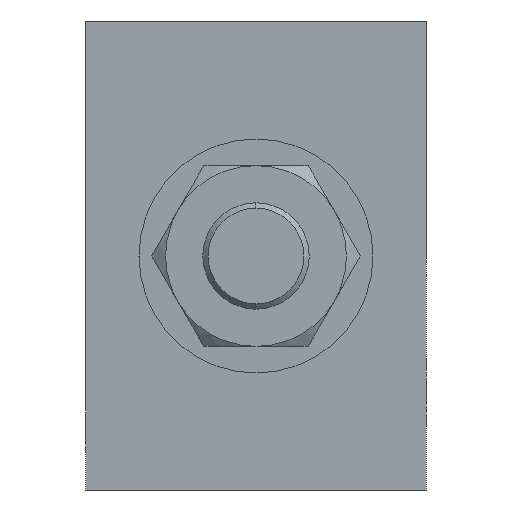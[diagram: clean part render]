
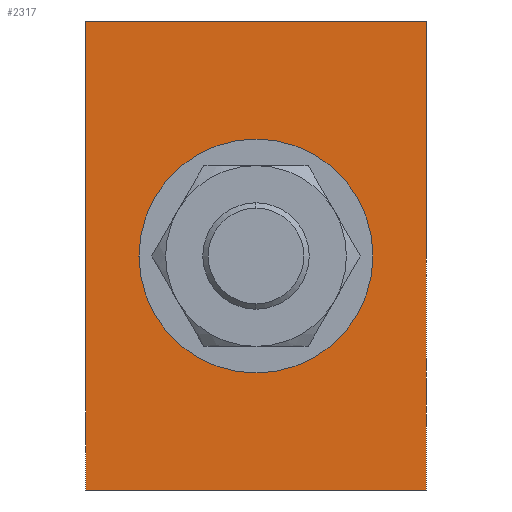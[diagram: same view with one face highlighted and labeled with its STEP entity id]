
A CAD part, left-side view. The second image highlights one B-rep face of the part: STEP entity #2317.
In plain terms, the highlighted planar face has unit normal (-1, 0, 0).
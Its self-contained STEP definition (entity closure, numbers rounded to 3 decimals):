
#6 = AXIS2_PLACEMENT_3D ( 'NONE', #1198, #2289, #2150 ) ;
#16 = DIRECTION ( 'NONE',  ( 0., 0., 1. ) ) ;
#20 = DIRECTION ( 'NONE',  ( 0., 0., -1. ) ) ;
#69 = ORIENTED_EDGE ( 'NONE', *, *, #375, .F. ) ;
#350 = EDGE_CURVE ( 'NONE', #2501, #1568, #2348, .T. ) ;
#353 = VERTEX_POINT ( 'NONE', #2737 ) ;
#375 = EDGE_CURVE ( 'NONE', #2255, #2501, #1976, .T. ) ;
#389 = EDGE_LOOP ( 'NONE', ( #2883, #1781, #69, #1133 ) ) ;
#483 = VECTOR ( 'NONE', #853, 1000. ) ;
#550 = EDGE_LOOP ( 'NONE', ( #1581, #2135 ) ) ;
#572 = AXIS2_PLACEMENT_3D ( 'NONE', #1766, #2324, #2096 ) ;
#617 = CIRCLE ( 'NONE', #572, 11. ) ;
#645 = FACE_OUTER_BOUND ( 'NONE', #389, .T. ) ;
#666 = VECTOR ( 'NONE', #2585, 1000. ) ;
#803 = CARTESIAN_POINT ( 'NONE',  ( -29., -16., -22. ) ) ;
#853 = DIRECTION ( 'NONE',  ( 0., -1., 0. ) ) ;
#890 = CARTESIAN_POINT ( 'NONE',  ( -29., -16., 22. ) ) ;
#895 = FACE_BOUND ( 'NONE', #550, .T. ) ;
#1091 = VECTOR ( 'NONE', #20, 1000. ) ;
#1106 = LINE ( 'NONE', #1267, #483 ) ;
#1133 = ORIENTED_EDGE ( 'NONE', *, *, #2534, .F. ) ;
#1198 = CARTESIAN_POINT ( 'NONE',  ( -29., 0., 0. ) ) ;
#1234 = VERTEX_POINT ( 'NONE', #890 ) ;
#1267 = CARTESIAN_POINT ( 'NONE',  ( -29., -16., 22. ) ) ;
#1353 = DIRECTION ( 'NONE',  ( -1., 0., 0. ) ) ;
#1390 = CIRCLE ( 'NONE', #6, 11. ) ;
#1476 = CARTESIAN_POINT ( 'NONE',  ( -29., 16., 22. ) ) ;
#1477 = EDGE_CURVE ( 'NONE', #353, #2417, #617, .T. ) ;
#1568 = VERTEX_POINT ( 'NONE', #1693 ) ;
#1581 = ORIENTED_EDGE ( 'NONE', *, *, #1477, .T. ) ;
#1688 = CARTESIAN_POINT ( 'NONE',  ( -29., 0., -11. ) ) ;
#1693 = CARTESIAN_POINT ( 'NONE',  ( -29., 16., 22. ) ) ;
#1766 = CARTESIAN_POINT ( 'NONE',  ( -29., 0., 0. ) ) ;
#1781 = ORIENTED_EDGE ( 'NONE', *, *, #350, .F. ) ;
#1789 = DIRECTION ( 'NONE',  ( 0., 1., 0. ) ) ;
#1826 = LINE ( 'NONE', #1920, #1091 ) ;
#1920 = CARTESIAN_POINT ( 'NONE',  ( -29., -16., 22. ) ) ;
#1976 = LINE ( 'NONE', #2025, #2328 ) ;
#2025 = CARTESIAN_POINT ( 'NONE',  ( -29., -16., -22. ) ) ;
#2096 = DIRECTION ( 'NONE',  ( 0., 0., 1. ) ) ;
#2135 = ORIENTED_EDGE ( 'NONE', *, *, #2357, .T. ) ;
#2150 = DIRECTION ( 'NONE',  ( 0., 0., 1. ) ) ;
#2255 = VERTEX_POINT ( 'NONE', #803 ) ;
#2289 = DIRECTION ( 'NONE',  ( 1., 0., 0. ) ) ;
#2317 = ADVANCED_FACE ( 'NONE', ( #645, #895 ), #2775, .T. ) ;
#2324 = DIRECTION ( 'NONE',  ( 1., 0., 0. ) ) ;
#2328 = VECTOR ( 'NONE', #1789, 1000. ) ;
#2348 = LINE ( 'NONE', #1476, #666 ) ;
#2357 = EDGE_CURVE ( 'NONE', #2417, #353, #1390, .T. ) ;
#2417 = VERTEX_POINT ( 'NONE', #1688 ) ;
#2495 = EDGE_CURVE ( 'NONE', #1568, #1234, #1106, .T. ) ;
#2501 = VERTEX_POINT ( 'NONE', #2881 ) ;
#2534 = EDGE_CURVE ( 'NONE', #1234, #2255, #1826, .T. ) ;
#2585 = DIRECTION ( 'NONE',  ( 0., 0., 1. ) ) ;
#2617 = CARTESIAN_POINT ( 'NONE',  ( -29., 0., 0. ) ) ;
#2737 = CARTESIAN_POINT ( 'NONE',  ( -29., 0., 11. ) ) ;
#2775 = PLANE ( 'NONE',  #2899 ) ;
#2881 = CARTESIAN_POINT ( 'NONE',  ( -29., 16., -22. ) ) ;
#2883 = ORIENTED_EDGE ( 'NONE', *, *, #2495, .F. ) ;
#2899 = AXIS2_PLACEMENT_3D ( 'NONE', #2617, #1353, #16 ) ;
